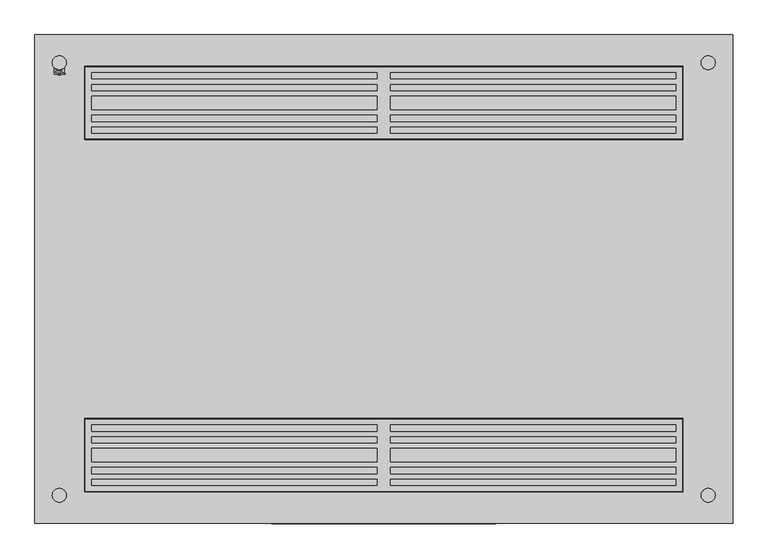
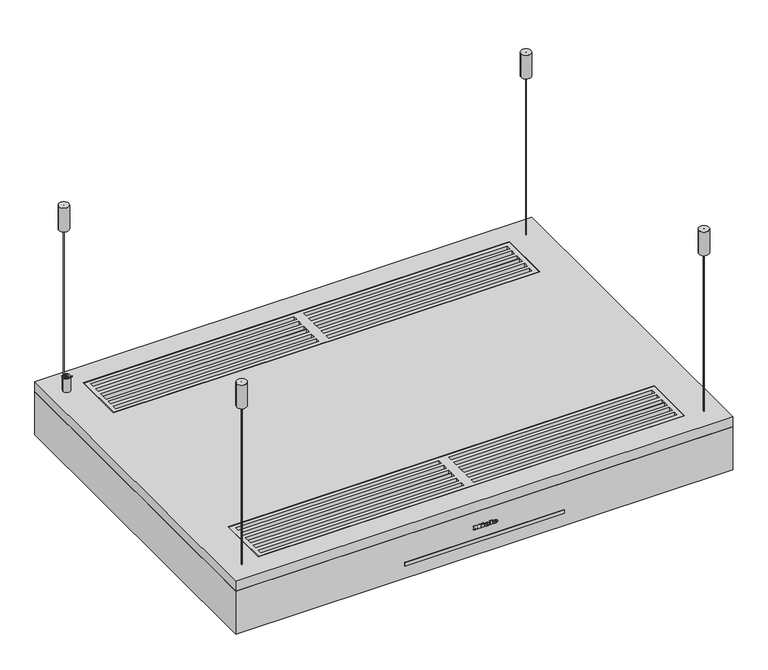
"""IFC4 building model written with IfcOpenShell, lengths in millimetres: proxy geometry, 10928130_B_DA6708D_EDST : 28670855_B_10928130_DA6708D_EDST."""

from ifc_helpers import new_model, si_unit, point, frame, frame_2d, origin, origin_with_axes, place, context, project, spatial, polyline, circle_curve, ellipse_curve, trimmed, segment, composite_curve, outline, extrude, faceted_brep, source, transform, mapped, element, save
from ifc_brep_helpers import plane_surface, cylinder_surface, revolved_surface, extruded_surface, advanced_brep


def specialty_equipment_f2d72708(model_context):
    return source(origin(), model_context, "Body", "SolidModel", [
        advanced_brep(
        [(195.883263, 289.0, 0.0), (254.116737, 289.0, 0.0), (251.5433287, 289.0, -1.2), (198.4566713, 289.0, -1.2), (225.0, 289.0, -1.2), (225.0, 289.0, 0.0)],
        [
            (0, 1, circle_curve(frame((225.0, 289.0, 0.0), z_axis=(0.0, 0.0, -1.0), x_axis=(1.0, 0.0, 0.0)), 29.116737)),
            (1, 2),
            (2, 3, circle_curve(frame((225.0, 289.0, -1.2), z_axis=(0.0, 0.0, 1.0), x_axis=(1.0, 0.0, 0.0)), 26.5433287)),
            (3, 0),
            (1, 0, circle_curve(frame((225.0, 289.0, 0.0), z_axis=(0.0, 0.0, -1.0), x_axis=(1.0, 0.0, 0.0)), 29.116737)),
            (3, 2, circle_curve(frame((225.0, 289.0, -1.2), z_axis=(0.0, 0.0, 1.0), x_axis=(1.0, 0.0, 0.0)), 26.5433287)),
            (2, 4),
            (4, 3),
            (5, 1),
            (0, 5),
        ],
        [
            revolved_surface(polyline([(251.5433287, 289.0, -1.2), (254.116737, 289.0, 0.0)]), (225.0, 289.0, 2238.4), (0.0, 0.0, 1.0)),
            plane_surface(frame((225.0, 289.0, -1.2), z_axis=(0.0, 0.0, -1.0), x_axis=(1.0, 0.0, 0.0))),
            plane_surface(frame((225.0, 289.0, 0.0), z_axis=(0.0, 0.0, 1.0), x_axis=(1.0, 0.0, 0.0))),
        ],
        [
            (0, [[1, 2, 3, 4]]),
            (0, [[5, -4, 6, -2]]),
            (1, [[-3, 7, 8]]),
            (1, [[-6, -8, -7]]),
            (2, [[9, -1, 10]]),
            (2, [[-10, -5, -9]]),
        ],
    ),
        advanced_brep(
        [(-254.116737, 289.0, 0.0), (-195.883263, 289.0, 0.0), (-198.4566713, 289.0, -1.2), (-251.5433287, 289.0, -1.2), (-225.0, 289.0, -1.2), (-225.0, 289.0, 0.0)],
        [
            (0, 1, circle_curve(frame((-225.0, 289.0, 0.0), z_axis=(0.0, 0.0, -1.0), x_axis=(1.0, 0.0, 0.0)), 29.116737)),
            (1, 2),
            (2, 3, circle_curve(frame((-225.0, 289.0, -1.2), z_axis=(0.0, 0.0, 1.0), x_axis=(1.0, 0.0, 0.0)), 26.5433287)),
            (3, 0),
            (1, 0, circle_curve(frame((-225.0, 289.0, 0.0), z_axis=(0.0, 0.0, -1.0), x_axis=(1.0, 0.0, 0.0)), 29.116737)),
            (3, 2, circle_curve(frame((-225.0, 289.0, -1.2), z_axis=(0.0, 0.0, 1.0), x_axis=(1.0, 0.0, 0.0)), 26.5433287)),
            (2, 4),
            (4, 3),
            (5, 1),
            (0, 5),
        ],
        [
            revolved_surface(polyline([(-198.4566713, 289.0, -1.2), (-195.883263, 289.0, 0.0)]), (-225.0, 289.0, 2238.4), (0.0, 0.0, 1.0)),
            plane_surface(frame((-225.0, 289.0, -1.2), z_axis=(0.0, 0.0, -1.0), x_axis=(1.0, 0.0, 0.0))),
            plane_surface(frame((-225.0, 289.0, 0.0), z_axis=(0.0, 0.0, 1.0), x_axis=(1.0, 0.0, 0.0))),
        ],
        [
            (0, [[1, 2, 3, 4]]),
            (0, [[5, -4, 6, -2]]),
            (1, [[-3, 7, 8]]),
            (1, [[-6, -8, -7]]),
            (2, [[9, -1, 10]]),
            (2, [[-10, -5, -9]]),
        ],
    ),
        advanced_brep(
        [(-251.5433287, -289.0, -1.2), (-198.4566713, -289.0, -1.2), (-195.883263, -289.0, 0.0), (-254.116737, -289.0, 0.0), (-225.0, -289.0, -1.2), (-225.0, -289.0, 0.0)],
        [
            (0, 1, circle_curve(frame((-225.0, -289.0, -1.2), z_axis=(0.0, 0.0, 1.0), x_axis=(1.0, 0.0, 0.0)), 26.5433287)),
            (1, 2),
            (2, 3, circle_curve(frame((-225.0, -289.0, 0.0), z_axis=(0.0, 0.0, -1.0), x_axis=(1.0, 0.0, 0.0)), 29.116737)),
            (3, 0),
            (1, 0, circle_curve(frame((-225.0, -289.0, -1.2), z_axis=(0.0, 0.0, 1.0), x_axis=(1.0, 0.0, 0.0)), 26.5433287)),
            (3, 2, circle_curve(frame((-225.0, -289.0, 0.0), z_axis=(0.0, 0.0, -1.0), x_axis=(1.0, 0.0, 0.0)), 29.116737)),
            (0, 4),
            (4, 1),
            (2, 5),
            (5, 3),
        ],
        [
            revolved_surface(polyline([(-195.883263, -289.0, 0.0), (-198.4566713, -289.0, -1.2)]), (-225.0, -289.0, 2238.4), (0.0, 0.0, -1.0)),
            plane_surface(frame((-225.0, -289.0, -1.2), z_axis=(0.0, 0.0, -1.0), x_axis=(1.0, 0.0, 0.0))),
            plane_surface(frame((-225.0, -289.0, 0.0), z_axis=(0.0, 0.0, 1.0), x_axis=(1.0, 0.0, 0.0))),
        ],
        [
            (0, [[1, 2, 3, 4]]),
            (0, [[-2, 5, -4, 6]]),
            (1, [[-1, 7, 8]]),
            (1, [[-5, -8, -7]]),
            (2, [[-3, 9, 10]]),
            (2, [[-6, -10, -9]]),
        ],
    ),
        advanced_brep(
        [(198.4566713, -289.0, -1.2), (251.5433287, -289.0, -1.2), (254.116737, -289.0, 0.0), (195.883263, -289.0, 0.0), (225.0, -289.0, -1.2), (225.0, -289.0, 0.0)],
        [
            (0, 1, circle_curve(frame((225.0, -289.0, -1.2), z_axis=(0.0, 0.0, 1.0), x_axis=(1.0, 0.0, 0.0)), 26.5433287)),
            (1, 2),
            (2, 3, circle_curve(frame((225.0, -289.0, 0.0), z_axis=(0.0, 0.0, -1.0), x_axis=(1.0, 0.0, 0.0)), 29.116737)),
            (3, 0),
            (1, 0, circle_curve(frame((225.0, -289.0, -1.2), z_axis=(0.0, 0.0, 1.0), x_axis=(1.0, 0.0, 0.0)), 26.5433287)),
            (3, 2, circle_curve(frame((225.0, -289.0, 0.0), z_axis=(0.0, 0.0, -1.0), x_axis=(1.0, 0.0, 0.0)), 29.116737)),
            (0, 4),
            (4, 1),
            (2, 5),
            (5, 3),
        ],
        [
            revolved_surface(polyline([(254.116737, -289.0, 0.0), (251.5433287, -289.0, -1.2)]), (225.0, -289.0, 2238.4), (0.0, 0.0, -1.0)),
            plane_surface(frame((225.0, -289.0, -1.2), z_axis=(0.0, 0.0, -1.0), x_axis=(1.0, 0.0, 0.0))),
            plane_surface(frame((225.0, -289.0, 0.0), z_axis=(0.0, 0.0, 1.0), x_axis=(1.0, 0.0, 0.0))),
        ],
        [
            (0, [[1, 2, 3, 4]]),
            (0, [[-2, 5, -4, 6]]),
            (1, [[-1, 7, 8]]),
            (1, [[-5, -8, -7]]),
            (2, [[-3, 9, 10]]),
            (2, [[-6, -10, -9]]),
        ],
    ),
        extrude(outline(composite_curve([segment(trimmed(circle_curve(frame_2d((-465.0, 310.0)), 10.0), [point((-475.0, 310.0))], [point((-455.0, 310.0))], False, "CARTESIAN"), True, "CONTINUOUS"), segment(trimmed(circle_curve(frame_2d((-465.0, 310.0)), 10.0), [point((-455.0, 310.0))], [point((-475.0, 310.0))], False, "CARTESIAN"), True, "CONTINUOUS")], self_intersect=False)), frame((0.0, 0.0, 450.0), z_axis=(0.0, 0.0, 1.0), x_axis=(1.0, 0.0, 0.0)), (0.0, 0.0, 1.0), 50.0),
        extrude(outline(composite_curve([segment(trimmed(circle_curve(frame_2d((465.0, 310.0)), 10.0), [point((455.0, 310.0))], [point((475.0, 310.0))], False, "CARTESIAN"), True, "CONTINUOUS"), segment(trimmed(circle_curve(frame_2d((465.0, 310.0)), 10.0), [point((475.0, 310.0))], [point((455.0, 310.0))], False, "CARTESIAN"), True, "CONTINUOUS")], self_intersect=False)), frame((0.0, 0.0, 450.0), z_axis=(0.0, 0.0, 1.0), x_axis=(1.0, 0.0, 0.0)), (0.0, 0.0, 1.0), 50.0),
        extrude(outline(composite_curve([segment(trimmed(circle_curve(frame_2d((-465.0, -310.0)), 10.0), [point((-475.0, -310.0))], [point((-455.0, -310.0))], False, "CARTESIAN"), True, "CONTINUOUS"), segment(trimmed(circle_curve(frame_2d((-465.0, -310.0)), 10.0), [point((-455.0, -310.0))], [point((-475.0, -310.0))], False, "CARTESIAN"), True, "CONTINUOUS")], self_intersect=False)), frame((0.0, 0.0, 450.0), z_axis=(0.0, 0.0, 1.0), x_axis=(1.0, 0.0, 0.0)), (0.0, 0.0, 1.0), 50.0),
        extrude(outline(composite_curve([segment(trimmed(circle_curve(frame_2d((465.0, -310.0)), 10.0), [point((455.0, -310.0))], [point((475.0, -310.0))], False, "CARTESIAN"), True, "CONTINUOUS"), segment(trimmed(circle_curve(frame_2d((465.0, -310.0)), 10.0), [point((475.0, -310.0))], [point((455.0, -310.0))], False, "CARTESIAN"), True, "CONTINUOUS")], self_intersect=False)), frame((0.0, 0.0, 450.0), z_axis=(0.0, 0.0, 1.0), x_axis=(1.0, 0.0, 0.0)), (0.0, 0.0, 1.0), 50.0),
        extrude(outline(composite_curve([segment(trimmed(circle_curve(frame_2d((465.0, -310.0)), 0.8), [point((464.2, -310.0))], [point((465.8, -310.0))], False, "CARTESIAN"), True, "CONTINUOUS"), segment(trimmed(circle_curve(frame_2d((465.0, -310.0)), 0.8), [point((465.8, -310.0))], [point((464.2, -310.0))], False, "CARTESIAN"), True, "CONTINUOUS")], self_intersect=False)), frame((0.0, 0.0, 112.0), z_axis=(0.0, 0.0, 1.0), x_axis=(1.0, 0.0, 0.0)), (0.0, 0.0, 1.0), 388.0),
        extrude(outline(composite_curve([segment(trimmed(circle_curve(frame_2d((-465.0, -310.0)), 0.8), [point((-465.8, -310.0))], [point((-464.2, -310.0))], False, "CARTESIAN"), True, "CONTINUOUS"), segment(trimmed(circle_curve(frame_2d((-465.0, -310.0)), 0.8), [point((-464.2, -310.0))], [point((-465.8, -310.0))], False, "CARTESIAN"), True, "CONTINUOUS")], self_intersect=False)), frame((0.0, 0.0, 112.0), z_axis=(0.0, 0.0, 1.0), x_axis=(1.0, 0.0, 0.0)), (0.0, 0.0, 1.0), 388.0),
        extrude(outline(composite_curve([segment(trimmed(circle_curve(frame_2d((465.0, 310.0)), 0.8), [point((464.2, 310.0))], [point((465.8, 310.0))], False, "CARTESIAN"), True, "CONTINUOUS"), segment(trimmed(circle_curve(frame_2d((465.0, 310.0)), 0.8), [point((465.8, 310.0))], [point((464.2, 310.0))], False, "CARTESIAN"), True, "CONTINUOUS")], self_intersect=False)), frame((0.0, 0.0, 112.0), z_axis=(0.0, 0.0, 1.0), x_axis=(1.0, 0.0, 0.0)), (0.0, 0.0, 1.0), 388.0),
        extrude(outline(composite_curve([segment(trimmed(circle_curve(frame_2d((-465.0, 310.0)), 0.8), [point((-465.8, 310.0))], [point((-464.2, 310.0))], False, "CARTESIAN"), True, "CONTINUOUS"), segment(trimmed(circle_curve(frame_2d((-465.0, 310.0)), 0.8), [point((-464.2, 310.0))], [point((-465.8, 310.0))], False, "CARTESIAN"), True, "CONTINUOUS")], self_intersect=False)), frame((0.0, 0.0, 112.0), z_axis=(0.0, 0.0, 1.0), x_axis=(1.0, 0.0, 0.0)), (0.0, 0.0, 1.0), 388.0),
        advanced_brep(
        [(21.104, -351.0, 56.396), (21.104, -351.0, 57.204), (26.456, -351.0, 57.204), (17.144, -351.0, 57.204), (19.344, -351.0, 54.5), (26.32, -351.0, 56.396), (23.904, -351.0, 56.396), (22.0, -351.0, 55.5), (21.104, -351.0, 58.228), (21.104, -351.0, 59.1), (22.472, -351.0, 59.1), (22.472, -351.0, 58.228), (21.104, -350.0, 56.396), (22.0, -350.0, 55.5), (23.904, -350.0, 56.396), (26.32, -350.0, 56.396), (19.344, -350.0, 54.5), (17.144, -350.0, 57.204), (26.456, -350.0, 57.204), (21.104, -350.0, 57.204), (21.104, -350.0, 58.228), (22.472, -350.0, 58.228), (22.472, -350.0, 59.1), (21.104, -350.0, 59.1)],
        [
            (0, 1),
            (1, 2),
            (2, 3, ellipse_curve(frame((21.8, -351.0, 57.204), z_axis=(0.0, -1.0, 0.0), x_axis=(-1.0, 0.0, 0.0)), 4.656, 3.848)),
            (3, 4, circle_curve(frame((20.2400436, -351.0, 57.476), z_axis=(0.0, -1.0, 0.0), x_axis=(0.0, 0.0, -1.0)), 3.1079688)),
            (4, 5, circle_curve(frame((21.7067936, -351.0, 59.588), z_axis=(0.0, -1.0, 0.0), x_axis=(0.0, 0.0, -1.0)), 5.6098607)),
            (5, 6),
            (6, 7, circle_curve(frame((22.3910588, -351.0, 57.14), z_axis=(0.0, 1.0, 0.0), x_axis=(0.0, 0.0, -1.0)), 1.6859795)),
            (7, 0, circle_curve(frame((22.0, -351.0, 56.396), z_axis=(0.0, 1.0, 0.0), x_axis=(0.0, 0.0, -1.0)), 0.896)),
            (8, 9),
            (9, 10, circle_curve(frame((21.788, -351.0, 59.1), z_axis=(0.0, 1.0, 0.0), x_axis=(0.0, 0.0, -1.0)), 0.684)),
            (10, 11),
            (11, 8),
            (12, 13, circle_curve(frame((22.0, -350.0, 56.396), z_axis=(0.0, -1.0, 0.0), x_axis=(0.0, 0.0, -1.0)), 0.896)),
            (13, 14, circle_curve(frame((22.3910588, -350.0, 57.14), z_axis=(0.0, -1.0, 0.0), x_axis=(0.0, 0.0, -1.0)), 1.6859795)),
            (14, 15),
            (15, 16, circle_curve(frame((21.7067936, -350.0, 59.588), z_axis=(0.0, 1.0, 0.0), x_axis=(0.0, 0.0, -1.0)), 5.6098607)),
            (16, 17, circle_curve(frame((20.2400436, -350.0, 57.476), z_axis=(0.0, 1.0, 0.0), x_axis=(0.0, 0.0, -1.0)), 3.1079688)),
            (17, 18, ellipse_curve(frame((21.8, -350.0, 57.204), z_axis=(0.0, 1.0, 0.0), x_axis=(-1.0, 0.0, 0.0)), 4.656, 3.848)),
            (18, 19),
            (19, 12),
            (20, 21),
            (21, 22),
            (22, 23, circle_curve(frame((21.788, -350.0, 59.1), z_axis=(0.0, -1.0, 0.0), x_axis=(0.0, 0.0, -1.0)), 0.684)),
            (23, 20),
            (0, 12),
            (19, 1),
            (18, 2),
            (5, 15),
            (14, 6),
            (17, 3),
            (13, 7),
            (16, 4),
            (8, 20),
            (23, 9),
            (22, 10),
            (21, 11),
        ],
        [
            plane_surface(frame((21.104, -351.0, 57.204), z_axis=(0.0, -1.0, 0.0), x_axis=(0.0, 0.0, 1.0))),
            plane_surface(frame((21.104, -350.0, 57.204), z_axis=(0.0, 1.0, 0.0), x_axis=(0.0, 0.0, -1.0))),
            plane_surface(frame((21.104, -351.0, 56.396), z_axis=(1.0, 0.0, 0.0), x_axis=(0.0, 1.0, 0.0))),
            plane_surface(frame((21.104, -351.0, 57.204), z_axis=(0.0, 0.0, -1.0), x_axis=(0.0, 1.0, 0.0))),
            plane_surface(frame((26.32, -351.0, 56.396), z_axis=(0.0, 0.0, 1.0), x_axis=(0.0, 1.0, 0.0))),
            extruded_surface(trimmed(ellipse_curve(frame((21.8, -349.0, 57.204), z_axis=(0.0, -1.0, 0.0), x_axis=(-1.0, 0.0, 0.0)), 4.656, 3.848), [point((26.456, -349.0, 57.204))], [point((17.144, -349.0, 57.204))], True, "CARTESIAN"), (0.0, -1.0, 0.0), 1.0),
            revolved_surface(polyline([(22.3910588, -350.0, 55.4540205), (22.3910588, -351.0, 55.4540205)]), (22.3910588, -350.0, 57.14), (0.0, 1.0, 0.0)),
            revolved_surface(polyline([(22.0, -350.0, 55.5), (22.0, -351.0, 55.5)]), (22.0, -350.0, 56.396), (0.0, 1.0, 0.0)),
            cylinder_surface(frame((20.2400436, -350.0, 57.476), z_axis=(0.0, -1.0, 0.0), x_axis=(0.0, 0.0, -1.0)), 3.1079688),
            cylinder_surface(frame((21.7067936, -350.0, 59.588), z_axis=(0.0, -1.0, 0.0), x_axis=(0.0, 0.0, -1.0)), 5.6098607),
            plane_surface(frame((21.104, -351.0, 58.228), z_axis=(1.0, 0.0, 0.0), x_axis=(0.0, 1.0, 0.0))),
            revolved_surface(polyline([(21.788, -350.0, 58.416000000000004), (21.788, -351.0, 58.416000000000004)]), (21.788, -350.0, 59.1), (0.0, 1.0, 0.0)),
            plane_surface(frame((22.472, -351.0, 59.1), z_axis=(-1.0, 0.0, 0.0), x_axis=(0.0, 1.0, 0.0))),
            plane_surface(frame((22.472, -351.0, 58.228), z_axis=(0.0, 0.0, 1.0), x_axis=(0.0, 1.0, 0.0))),
        ],
        [
            (0, [[1, 2, 3, 4, 5, 6, 7, 8], [9, 10, 11, 12]]),
            (1, [[13, 14, 15, 16, 17, 18, 19, 20], [21, 22, 23, 24]]),
            (2, [[-1, 25, -20, 26]]),
            (3, [[-2, -26, -19, 27]]),
            (4, [[-6, 28, -15, 29]]),
            (5, [[-3, -27, -18, 30]]),
            (6, [[-7, -29, -14, 31]]),
            (7, [[-8, -31, -13, -25]]),
            (8, [[-4, -30, -17, 32]]),
            (9, [[-5, -32, -16, -28]]),
            (10, [[-9, 33, -24, 34]]),
            (11, [[-10, -34, -23, 35]]),
            (12, [[-11, -35, -22, 36]]),
            (13, [[-12, -36, -21, -33]]),
        ],
    ),
        advanced_brep(
        [(4.408, -351.0, 56.396), (4.408, -351.0, 57.204), (9.76, -351.0, 57.204), (0.448, -351.0, 57.204), (2.648, -351.0, 54.5), (9.624, -351.0, 56.396), (7.208, -351.0, 56.396), (5.304, -351.0, 55.5), (4.408, -351.0, 58.228), (4.408, -351.0, 59.1), (5.776, -351.0, 59.1), (5.776, -351.0, 58.228), (4.408, -350.0, 56.396), (5.304, -350.0, 55.5), (7.208, -350.0, 56.396), (9.624, -350.0, 56.396), (2.648, -350.0, 54.5), (0.448, -350.0, 57.204), (9.76, -350.0, 57.204), (4.408, -350.0, 57.204), (4.408, -350.0, 58.228), (5.776, -350.0, 58.228), (5.776, -350.0, 59.1), (4.408, -350.0, 59.1)],
        [
            (0, 1),
            (1, 2),
            (2, 3, ellipse_curve(frame((5.104, -351.0, 57.204), z_axis=(0.0, -1.0, 0.0), x_axis=(-1.0, 0.0, 0.0)), 4.656, 3.848)),
            (3, 4, circle_curve(frame((3.5440436, -351.0, 57.476), z_axis=(0.0, -1.0, 0.0), x_axis=(0.0, 0.0, -1.0)), 3.1079688)),
            (4, 5, circle_curve(frame((5.0107936, -351.0, 59.588), z_axis=(0.0, -1.0, 0.0), x_axis=(0.0, 0.0, -1.0)), 5.6098607)),
            (5, 6),
            (6, 7, circle_curve(frame((5.6950588, -351.0, 57.14), z_axis=(0.0, 1.0, 0.0), x_axis=(0.0, 0.0, -1.0)), 1.6859795)),
            (7, 0, circle_curve(frame((5.304, -351.0, 56.396), z_axis=(0.0, 1.0, 0.0), x_axis=(0.0, 0.0, -1.0)), 0.896)),
            (8, 9),
            (9, 10, circle_curve(frame((5.092, -351.0, 59.1), z_axis=(0.0, 1.0, 0.0), x_axis=(0.0, 0.0, -1.0)), 0.684)),
            (10, 11),
            (11, 8),
            (12, 13, circle_curve(frame((5.304, -350.0, 56.396), z_axis=(0.0, -1.0, 0.0), x_axis=(0.0, 0.0, -1.0)), 0.896)),
            (13, 14, circle_curve(frame((5.6950588, -350.0, 57.14), z_axis=(0.0, -1.0, 0.0), x_axis=(0.0, 0.0, -1.0)), 1.6859795)),
            (14, 15),
            (15, 16, circle_curve(frame((5.0107936, -350.0, 59.588), z_axis=(0.0, 1.0, 0.0), x_axis=(0.0, 0.0, -1.0)), 5.6098607)),
            (16, 17, circle_curve(frame((3.5440436, -350.0, 57.476), z_axis=(0.0, 1.0, 0.0), x_axis=(0.0, 0.0, -1.0)), 3.1079688)),
            (17, 18, ellipse_curve(frame((5.104, -350.0, 57.204), z_axis=(0.0, 1.0, 0.0), x_axis=(-1.0, 0.0, 0.0)), 4.656, 3.848)),
            (18, 19),
            (19, 12),
            (20, 21),
            (21, 22),
            (22, 23, circle_curve(frame((5.092, -350.0, 59.1), z_axis=(0.0, -1.0, 0.0), x_axis=(0.0, 0.0, -1.0)), 0.684)),
            (23, 20),
            (0, 12),
            (19, 1),
            (18, 2),
            (5, 15),
            (14, 6),
            (17, 3),
            (13, 7),
            (16, 4),
            (8, 20),
            (23, 9),
            (22, 10),
            (21, 11),
        ],
        [
            plane_surface(frame((4.408, -351.0, 57.204), z_axis=(0.0, -1.0, 0.0), x_axis=(0.0, 0.0, 1.0))),
            plane_surface(frame((4.408, -350.0, 57.204), z_axis=(0.0, 1.0, 0.0), x_axis=(0.0, 0.0, -1.0))),
            plane_surface(frame((4.408, -351.0, 56.396), z_axis=(1.0, 0.0, 0.0), x_axis=(0.0, 1.0, 0.0))),
            plane_surface(frame((4.408, -351.0, 57.204), z_axis=(0.0, 0.0, -1.0), x_axis=(0.0, 1.0, 0.0))),
            plane_surface(frame((9.624, -351.0, 56.396), z_axis=(0.0, 0.0, 1.0), x_axis=(0.0, 1.0, 0.0))),
            extruded_surface(trimmed(ellipse_curve(frame((5.104, -349.0, 57.204), z_axis=(0.0, -1.0, 0.0), x_axis=(-1.0, 0.0, 0.0)), 4.656, 3.848), [point((9.76, -349.0, 57.204))], [point((0.448, -349.0, 57.204))], True, "CARTESIAN"), (0.0, -1.0, 0.0), 1.0),
            revolved_surface(polyline([(5.6950588, -350.0, 55.4540205), (5.6950588, -351.0, 55.4540205)]), (5.6950588, -350.0, 57.14), (0.0, 1.0, 0.0)),
            revolved_surface(polyline([(5.304, -350.0, 55.5), (5.304, -351.0, 55.5)]), (5.304, -350.0, 56.396), (0.0, 1.0, 0.0)),
            cylinder_surface(frame((3.5440436, -350.0, 57.476), z_axis=(0.0, -1.0, 0.0), x_axis=(0.0, 0.0, -1.0)), 3.1079688),
            cylinder_surface(frame((5.0107936, -350.0, 59.588), z_axis=(0.0, -1.0, 0.0), x_axis=(0.0, 0.0, -1.0)), 5.6098607),
            plane_surface(frame((4.408, -351.0, 58.228), z_axis=(1.0, 0.0, 0.0), x_axis=(0.0, 1.0, 0.0))),
            revolved_surface(polyline([(5.092, -350.0, 58.416000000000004), (5.092, -351.0, 58.416000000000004)]), (5.092, -350.0, 59.1), (0.0, 1.0, 0.0)),
            plane_surface(frame((5.776, -351.0, 59.1), z_axis=(-1.0, 0.0, 0.0), x_axis=(0.0, 1.0, 0.0))),
            plane_surface(frame((5.776, -351.0, 58.228), z_axis=(0.0, 0.0, 1.0), x_axis=(0.0, 1.0, 0.0))),
        ],
        [
            (0, [[1, 2, 3, 4, 5, 6, 7, 8], [9, 10, 11, 12]]),
            (1, [[13, 14, 15, 16, 17, 18, 19, 20], [21, 22, 23, 24]]),
            (2, [[-1, 25, -20, 26]]),
            (3, [[-2, -26, -19, 27]]),
            (4, [[-6, 28, -15, 29]]),
            (5, [[-3, -27, -18, 30]]),
            (6, [[-7, -29, -14, 31]]),
            (7, [[-8, -31, -13, -25]]),
            (8, [[-4, -30, -17, 32]]),
            (9, [[-5, -32, -16, -28]]),
            (10, [[-9, 33, -24, 34]]),
            (11, [[-10, -34, -23, 35]]),
            (12, [[-11, -35, -22, 36]]),
            (13, [[-12, -36, -21, -33]]),
        ],
    ),
        extrude(outline(polyline([(62.028, -4.336), (60.732, -3.728), (61.996, -1.016), (63.292, -1.616), (62.028, -4.336)])), frame((0.0, -351.0, 0.0), z_axis=(0.0, 1.0, 0.0), x_axis=(0.0, 0.0, 1.0)), (0.0, 0.0, 1.0), 1.0),
        extrude(outline(polyline([(60.556, -6.312), (59.124, -6.312), (59.124, -5.36), (55.844, -5.36), (55.844, -6.312), (54.5, -6.312), (54.5, 0.0), (55.844, 0.0), (55.844, -0.928), (60.556, -0.928), (60.556, -6.312)])), frame((0.0, -351.0, 0.0), z_axis=(0.0, 1.0, 0.0), x_axis=(0.0, 0.0, 1.0)), (0.0, 0.0, 1.0), 1.0),
        extrude(outline(polyline([(61.196, 10.208), (61.196, 11.168), (55.844, 11.168), (55.844, 10.208), (54.5, 10.208), (54.5, 16.696), (55.844, 16.696), (55.844, 15.712), (62.5, 15.712), (62.5, 10.208), (61.196, 10.208)])), frame((0.0, -351.0, 0.0), z_axis=(0.0, 1.0, 0.0), x_axis=(0.0, 0.0, 1.0)), (0.0, 0.0, 1.0), 1.0),
        extrude(outline(polyline([(61.196, -22.256), (61.196, -21.288), (55.844, -21.288), (55.844, -22.256), (54.5, -22.256), (54.5, -18.736), (55.844, -18.736), (55.844, -19.696), (59.2471247, -19.696), (54.5, -16.12), (59.3152223, -12.528), (55.844, -12.528), (55.844, -13.512), (54.5, -13.512), (54.5, -7.128), (55.844, -7.128), (55.844, -8.144), (61.196, -8.144), (61.196, -7.128), (62.5, -7.128), (62.5, -12.0), (59.5, -14.336), (62.5, -16.68), (62.5, -22.256), (61.196, -22.256)])), frame((0.0, -351.0, 0.0), z_axis=(0.0, 1.0, 0.0), x_axis=(0.0, 0.0, 1.0)), (0.0, 0.0, 1.0), 1.0),
        extrude(outline(polyline([(63.5, 227.0), (378.0, 227.0), (378.0, -227.0), (63.5, -227.0), (63.5, 227.0)])), frame((0.0, 0.0, 1.2), z_axis=(0.0, 0.0, 1.0), x_axis=(1.0, 0.0, 0.0)), (0.0, 0.0, 1.0), 6.0),
        extrude(outline(polyline([(54.5, 236.0), (387.0, 236.0), (387.0, -236.0), (54.5, -236.0), (54.5, 236.0)]), holes=[polyline([(63.5, 227.0), (63.5, -227.0), (378.0, -227.0), (378.0, 227.0), (63.5, 227.0)])]), frame((0.0, 0.0, -0.3), z_axis=(0.0, 0.0, 1.0), x_axis=(1.0, 0.0, 0.0)), (0.0, 0.0, 1.0), 9.0),
        extrude(outline(polyline([(-63.5, 227.0), (-63.5, -227.0), (-378.0, -227.0), (-378.0, 227.0), (-63.5, 227.0)])), frame((0.0, 0.0, 1.2), z_axis=(0.0, 0.0, 1.0), x_axis=(1.0, 0.0, 0.0)), (0.0, 0.0, 1.0), 6.0),
        extrude(outline(polyline([(-54.5, 236.0), (-54.5, -236.0), (-387.0, -236.0), (-387.0, 236.0), (-54.5, 236.0)]), holes=[polyline([(-63.5, 227.0), (-378.0, 227.0), (-378.0, -227.0), (-63.5, -227.0), (-63.5, 227.0)])]), frame((0.0, 0.0, -0.3), z_axis=(0.0, 0.0, 1.0), x_axis=(1.0, 0.0, 0.0)), (0.0, 0.0, 1.0), 9.0),
        extrude(outline(polyline([(204.25, 184.0), (204.25, 227.0), (237.25, 227.0), (237.25, 184.0), (204.25, 184.0)]), holes=[polyline([(210.75, 190.5), (230.5214328, 190.5), (230.5214328, 199.5), (210.75, 199.5), (210.75, 190.5)])]), frame((0.0, 0.0, -0.3), z_axis=(0.0, 0.0, 1.0), x_axis=(1.0, 0.0, 0.0)), (0.0, 0.0, 1.0), 1.5),
        extrude(outline(polyline([(-204.25, 184.0), (-237.25, 184.0), (-237.25, 227.0), (-204.25, 227.0), (-204.25, 184.0)]), holes=[polyline([(-210.75, 190.5), (-210.75, 199.5), (-230.75, 199.5), (-230.75, 190.5), (-210.75, 190.5)])]), frame((0.0, 0.0, -0.3), z_axis=(0.0, 0.0, 1.0), x_axis=(1.0, 0.0, 0.0)), (0.0, 0.0, 1.0), 1.5),
        extrude(outline(polyline([(-427.6682536, -304.0), (-427.6682536, -201.0), (427.6682536, -201.0), (427.6682536, -304.0), (-427.6682536, -304.0)]), holes=[polyline([(-10.0, -287.0), (-418.6682536, -287.0), (-418.6682536, -296.0), (-10.0, -296.0), (-10.0, -287.0)]), polyline([(418.6682536, -287.0), (10.0, -287.0), (10.0, -296.0), (418.6682536, -296.0), (418.6682536, -287.0)]), polyline([(-10.0, -209.0), (-418.6682536, -209.0), (-418.6682536, -218.0), (-10.0, -218.0), (-10.0, -209.0)]), polyline([(418.6682536, -209.0), (10.0, -209.0), (10.0, -218.0), (418.6682536, -218.0), (418.6682536, -209.0)]), polyline([(-10.0, -270.0), (-418.6682536, -270.0), (-418.6682536, -279.0), (-10.0, -279.0), (-10.0, -270.0)]), polyline([(418.6682536, -270.0), (10.0, -270.0), (10.0, -279.0), (418.6682536, -279.0), (418.6682536, -270.0)]), polyline([(-10.0, -226.0), (-418.6682536, -226.0), (-418.6682536, -235.0), (-10.0, -235.0), (-10.0, -226.0)]), polyline([(418.6682536, -226.0), (10.0, -226.0), (10.0, -235.0), (418.6682536, -235.0), (418.6682536, -226.0)]), polyline([(-10.0, -243.0), (-418.6682536, -243.0), (-418.6682536, -252.0), (-10.0, -252.0), (-10.0, -243.0)]), polyline([(418.6682536, -243.0), (10.0, -243.0), (10.0, -252.0), (418.6682536, -252.0), (418.6682536, -243.0)]), polyline([(-10.0, -253.0), (-418.6682536, -253.0), (-418.6682536, -262.0), (-10.0, -262.0), (-10.0, -253.0)]), polyline([(418.6682536, -253.0), (10.0, -253.0), (10.0, -262.0), (418.6682536, -262.0), (418.6682536, -253.0)])]), frame((0.0, 0.0, 102.0), z_axis=(0.0, 0.0, 1.0), x_axis=(1.0, 0.0, 0.0)), (0.0, 0.0, 1.0), 10.0),
        extrude(outline(polyline([(-427.6682536, 304.0), (427.6682536, 304.0), (427.6682536, 201.0), (-427.6682536, 201.0), (-427.6682536, 304.0)]), holes=[polyline([(-418.6682536, 287.0), (-10.0, 287.0), (-10.0, 296.0), (-418.6682536, 296.0), (-418.6682536, 287.0)]), polyline([(10.0, 287.0), (418.6682536, 287.0), (418.6682536, 296.0), (10.0, 296.0), (10.0, 287.0)]), polyline([(-418.6682536, 209.0), (-10.0, 209.0), (-10.0, 218.0), (-418.6682536, 218.0), (-418.6682536, 209.0)]), polyline([(10.0, 209.0), (418.6682536, 209.0), (418.6682536, 218.0), (10.0, 218.0), (10.0, 209.0)]), polyline([(-418.6682536, 270.0), (-10.0, 270.0), (-10.0, 279.0), (-418.6682536, 279.0), (-418.6682536, 270.0)]), polyline([(10.0, 270.0), (418.6682536, 270.0), (418.6682536, 279.0), (10.0, 279.0), (10.0, 270.0)]), polyline([(-418.6682536, 226.0), (-10.0, 226.0), (-10.0, 235.0), (-418.6682536, 235.0), (-418.6682536, 226.0)]), polyline([(10.0, 226.0), (418.6682536, 226.0), (418.6682536, 235.0), (10.0, 235.0), (10.0, 226.0)]), polyline([(-418.6682536, 243.0), (-10.0, 243.0), (-10.0, 252.0), (-418.6682536, 252.0), (-418.6682536, 243.0)]), polyline([(10.0, 243.0), (418.6682536, 243.0), (418.6682536, 252.0), (10.0, 252.0), (10.0, 243.0)]), polyline([(-418.6682536, 253.0), (-10.0, 253.0), (-10.0, 262.0), (-418.6682536, 262.0), (-418.6682536, 253.0)]), polyline([(10.0, 253.0), (418.6682536, 253.0), (418.6682536, 262.0), (10.0, 262.0), (10.0, 253.0)])]), frame((0.0, 0.0, 102.0), z_axis=(0.0, 0.0, 1.0), x_axis=(1.0, 0.0, 0.0)), (0.0, 0.0, 1.0), 10.0),
        extrude(outline(polyline([(500.0, -350.0), (-500.0, -350.0), (-500.0, 350.0), (500.0, 350.0), (500.0, -350.0)]), holes=[polyline([(-495.0, -345.0), (495.0, -345.0), (495.0, 345.0), (-495.0, 345.0), (-495.0, -345.0)])]), origin_with_axes(), (0.0, 0.0, 1.0), 91.0),
        faceted_brep([(500.0, 350.0, 112.0), (-500.0, 350.0, 112.0), (-500.0, -350.0, 112.0), (500.0, -350.0, 112.0), (428.6682536, 305.0, 112.0), (428.6682536, 200.0, 112.0), (-428.6682536, 200.0, 112.0), (-428.6682536, 305.0, 112.0), (428.6682536, -200.0, 112.0), (428.6682536, -305.0, 112.0), (-428.6682536, -305.0, 112.0), (-428.6682536, -200.0, 112.0), (495.0, -345.0, 0.0), (-495.0, -345.0, 0.0), (-495.0, 345.0, 0.0), (495.0, 345.0, 0.0), (-54.25, -236.0, 0.0), (-54.25, 236.0, 0.0), (-387.0, 236.0, 0.0), (-387.0, -236.0, 0.0), (387.0, -236.0, 0.0), (387.0, 236.0, 0.0), (54.25, 236.0, 0.0), (54.25, -236.0, 0.0), (500.0, 350.0, 91.0), (-500.0, 350.0, 91.0), (-500.0, -350.0, 91.0), (500.0, -350.0, 91.0), (-54.25, 236.0, 10.0), (-54.25, -236.0, 10.0), (-387.0, -236.0, 10.0), (-387.0, 236.0, 10.0), (387.0, 236.0, 10.0), (387.0, -236.0, 10.0), (54.25, -236.0, 10.0), (54.25, 236.0, 10.0), (428.6682536, 305.0, 102.0), (-428.6682536, 305.0, 102.0), (-428.6682536, 200.0, 102.0), (428.6682536, 200.0, 102.0), (428.6682536, -200.0, 102.0), (-428.6682536, -200.0, 102.0), (-428.6682536, -305.0, 102.0), (428.6682536, -305.0, 102.0), (-495.0, -345.0, 91.0), (495.0, -345.0, 91.0), (495.0, 345.0, 91.0), (-495.0, 345.0, 91.0)], [[[0, 1, 2, 3], [4, 5, 6, 7], [8, 9, 10, 11]], [[12, 13, 14, 15], [16, 17, 18, 19], [20, 21, 22, 23]], [[1, 0, 24, 25]], [[2, 1, 25, 26]], [[3, 2, 26, 27]], [[0, 3, 27, 24]], [[28, 29, 30, 31]], [[32, 33, 34, 35]], [[29, 28, 17, 16]], [[30, 29, 16, 19]], [[31, 30, 19, 18]], [[28, 31, 18, 17]], [[33, 32, 21, 20]], [[34, 33, 20, 23]], [[35, 34, 23, 22]], [[32, 35, 22, 21]], [[36, 37, 38, 39]], [[40, 41, 42, 43]], [[39, 38, 6, 5]], [[40, 43, 9, 8]], [[36, 39, 5, 4]], [[38, 37, 7, 6]], [[37, 36, 4, 7]], [[43, 42, 10, 9]], [[42, 41, 11, 10]], [[41, 40, 8, 11]], [[25, 24, 27, 26], [44, 45, 46, 47]], [[45, 44, 13, 12]], [[46, 45, 12, 15]], [[47, 46, 15, 14]], [[44, 47, 14, 13]]]),
        extrude(outline(polyline([(-472.3772603, 294.0), (-472.3772603, 304.045631), (-465.156963, 304.045631), (-465.156963, 302.7899271), (-471.1215564, 302.7899271), (-471.1215564, 299.8076304), (-465.470889, 299.8076304), (-465.470889, 298.5519266), (-471.1215564, 298.5519266), (-471.1215564, 295.2557039), (-465.0, 295.2557039), (-465.0, 294.0), (-472.3772603, 294.0)])), frame((0.0, 0.0, 142.0), z_axis=(0.0, 0.0, 1.0), x_axis=(1.0, 0.0, 0.0)), (0.0, 0.0, 1.0), 1.0),
        extrude(outline(polyline([(-463.1164442, 294.0), (-463.1164442, 304.045631), (-461.8607403, 304.045631), (-461.8607403, 295.2557039), (-456.8379248, 295.2557039), (-456.8379248, 294.0), (-463.1164442, 294.0)])), frame((0.0, 0.0, 142.0), z_axis=(0.0, 0.0, 1.0), x_axis=(1.0, 0.0, 0.0)), (0.0, 0.0, 1.0), 1.0),
        extrude(outline(composite_curve([segment(trimmed(circle_curve(frame_2d((-465.0, 300.0)), 7.5), [point((-457.5, 300.0))], [point((-472.5, 300.0))], False, "CARTESIAN"), True, "CONTINUOUS"), segment(trimmed(circle_curve(frame_2d((-465.0, 300.0)), 7.5), [point((-472.5, 300.0))], [point((-457.5, 300.0))], False, "CARTESIAN"), True, "CONTINUOUS")], self_intersect=False)), frame((0.0, 0.0, 112.0), z_axis=(0.0, 0.0, 1.0), x_axis=(1.0, 0.0, 0.0)), (0.0, 0.0, 1.0), 30.0),
        extrude(outline(polyline([(160.5, -350.0), (160.5, -351.0), (-160.5, -351.0), (-160.5, -350.0), (160.5, -350.0)])), frame((0.0, 0.0, 26.0), z_axis=(0.0, 0.0, 1.0), x_axis=(1.0, 0.0, 0.0)), (0.0, 0.0, 1.0), 8.0),
    ])


if __name__ == "__main__":
    model = new_model("IFC4")
    model_context = context("Model", 3, world=origin())
    ifc_project = project(units=[si_unit("LENGTHUNIT", "METRE", prefix="MILLI")], contexts=[model_context])
    site = spatial("IfcSite", under=ifc_project)
    building = spatial("IfcBuilding", under=site)
    placement = place(None, origin())
    specialty_equipment_shape = specialty_equipment_f2d72708(model_context)
    element("IfcBuildingElementProxy", 1, Name="10928130_B_DA6708D_EDST : 28670855_B_10928130_DA6708D_EDST", ObjectType="10928130_B_DA6708D_EDST : 28670855_B_10928130_DA6708D_EDST", at=placement, inside=building, context=model_context, shape_type="MappedRepresentation", body=[
        mapped(specialty_equipment_shape, transform((0.0, 0.0, 0.0), x_axis=(1.0, 0.0, 0.0), y_axis=(0.0, 1.0, 0.0), z_axis=(0.0, 0.0, 1.0))),
    ])
    save(model, "model.ifc")
